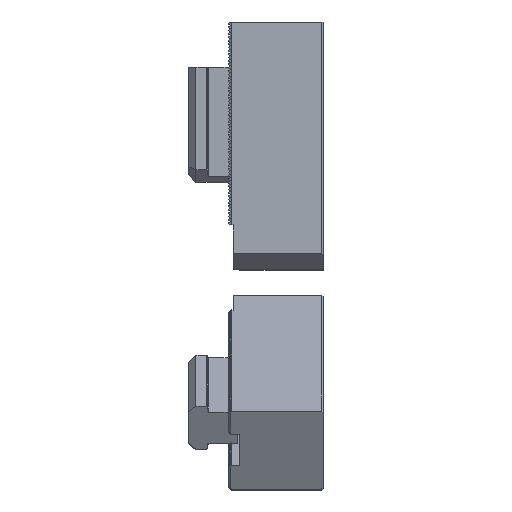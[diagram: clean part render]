
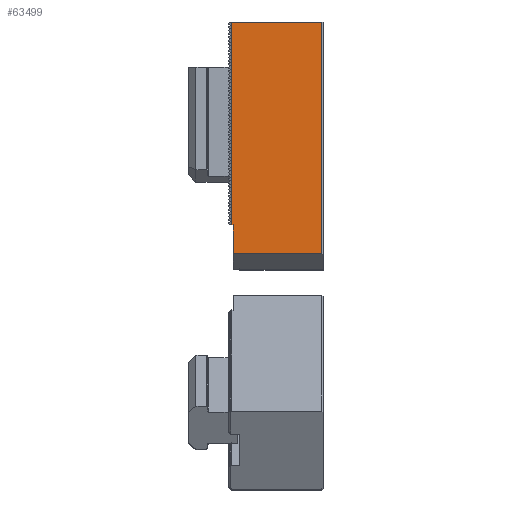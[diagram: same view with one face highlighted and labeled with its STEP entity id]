
A CAD part, top view. The second image highlights one B-rep face of the part: STEP entity #63499.
In plain terms, the highlighted planar face has unit normal (0, 0, 1).
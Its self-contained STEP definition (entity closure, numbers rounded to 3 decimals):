
#1270 = ORIENTED_EDGE ( 'NONE', *, *, #33248, .T. ) ;
#3171 = CARTESIAN_POINT ( 'NONE',  ( 110., -19.6, 20. ) ) ;
#6172 = AXIS2_PLACEMENT_3D ( 'NONE', #76268, #19257, #85795 ) ;
#6804 = ORIENTED_EDGE ( 'NONE', *, *, #51136, .T. ) ;
#11917 = EDGE_CURVE ( 'NONE', #54968, #122268, #45681, .T. ) ;
#15425 = LINE ( 'NONE', #3171, #40755 ) ;
#15777 = CARTESIAN_POINT ( 'NONE',  ( 0., 0., 20. ) ) ;
#19257 = DIRECTION ( 'NONE',  ( 0., 0., 1. ) ) ;
#24494 = VERTEX_POINT ( 'NONE', #116120 ) ;
#26246 = ORIENTED_EDGE ( 'NONE', *, *, #103854, .T. ) ;
#26962 = LINE ( 'NONE', #31283, #99748 ) ;
#31283 = CARTESIAN_POINT ( 'NONE',  ( 90., -19., 20. ) ) ;
#32595 = EDGE_CURVE ( 'NONE', #77406, #54968, #75335, .T. ) ;
#33057 = CARTESIAN_POINT ( 'NONE',  ( 0., -19.6, 20. ) ) ;
#33248 = EDGE_CURVE ( 'NONE', #70523, #116439, #15425, .T. ) ;
#35011 = CARTESIAN_POINT ( 'NONE',  ( 102.783, 0., 20. ) ) ;
#39006 = EDGE_CURVE ( 'NONE', #122268, #24494, #121664, .T. ) ;
#40755 = VECTOR ( 'NONE', #41484, 1000. ) ;
#41484 = DIRECTION ( 'NONE',  ( 1., 0., 0. ) ) ;
#42697 = VECTOR ( 'NONE', #91945, 1000. ) ;
#45681 = LINE ( 'NONE', #35011, #42697 ) ;
#47451 = DIRECTION ( 'NONE',  ( -1., 0., 0. ) ) ;
#49061 = VECTOR ( 'NONE', #47451, 1000. ) ;
#51136 = EDGE_CURVE ( 'NONE', #24494, #70523, #68166, .T. ) ;
#53796 = ORIENTED_EDGE ( 'NONE', *, *, #32595, .T. ) ;
#54580 = CARTESIAN_POINT ( 'NONE',  ( 102.783, -19., 20. ) ) ;
#54968 = VERTEX_POINT ( 'NONE', #54580 ) ;
#63499 = ADVANCED_FACE ( 'NONE', ( #106610 ), #85370, .T. ) ;
#68166 = LINE ( 'NONE', #15777, #115633 ) ;
#70523 = VERTEX_POINT ( 'NONE', #33057 ) ;
#74852 = CARTESIAN_POINT ( 'NONE',  ( 90., -19.6, 20. ) ) ;
#75335 = LINE ( 'NONE', #77835, #122712 ) ;
#76268 = CARTESIAN_POINT ( 'NONE',  ( 110., 0., 20. ) ) ;
#77406 = VERTEX_POINT ( 'NONE', #117007 ) ;
#77835 = CARTESIAN_POINT ( 'NONE',  ( 110., -19., 20. ) ) ;
#78662 = DIRECTION ( 'NONE',  ( 0., 1., 0. ) ) ;
#80647 = EDGE_LOOP ( 'NONE', ( #1270, #26246, #53796, #92167, #97288, #6804 ) ) ;
#80941 = CARTESIAN_POINT ( 'NONE',  ( 102.783, 20.4, 20. ) ) ;
#85370 = PLANE ( 'NONE',  #6172 ) ;
#85795 = DIRECTION ( 'NONE',  ( 1., 0., 0. ) ) ;
#87381 = DIRECTION ( 'NONE',  ( 1., 0., 0. ) ) ;
#91804 = DIRECTION ( 'NONE',  ( 0., -1., 0. ) ) ;
#91945 = DIRECTION ( 'NONE',  ( 0., 1., 0. ) ) ;
#92167 = ORIENTED_EDGE ( 'NONE', *, *, #11917, .T. ) ;
#97288 = ORIENTED_EDGE ( 'NONE', *, *, #39006, .T. ) ;
#99748 = VECTOR ( 'NONE', #78662, 1000. ) ;
#103854 = EDGE_CURVE ( 'NONE', #116439, #77406, #26962, .T. ) ;
#104293 = CARTESIAN_POINT ( 'NONE',  ( 110., 20.4, 20. ) ) ;
#106610 = FACE_OUTER_BOUND ( 'NONE', #80647, .T. ) ;
#115633 = VECTOR ( 'NONE', #91804, 1000. ) ;
#116120 = CARTESIAN_POINT ( 'NONE',  ( 0., 20.4, 20. ) ) ;
#116439 = VERTEX_POINT ( 'NONE', #74852 ) ;
#117007 = CARTESIAN_POINT ( 'NONE',  ( 90., -19., 20. ) ) ;
#121664 = LINE ( 'NONE', #104293, #49061 ) ;
#122268 = VERTEX_POINT ( 'NONE', #80941 ) ;
#122712 = VECTOR ( 'NONE', #87381, 1000. ) ;
